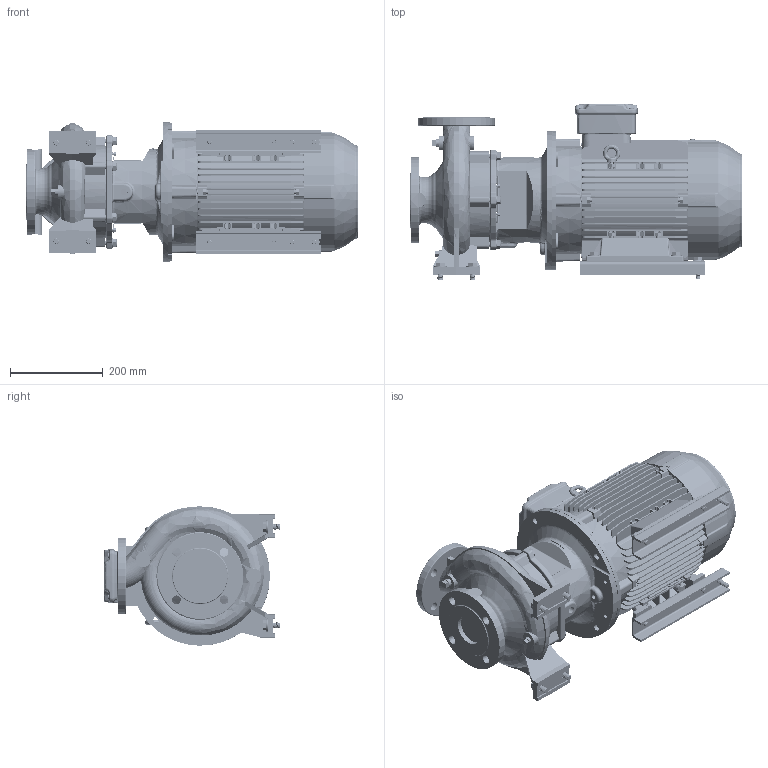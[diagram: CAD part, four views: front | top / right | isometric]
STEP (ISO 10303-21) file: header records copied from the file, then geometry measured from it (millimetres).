
FILE_DESCRIPTION (( 'STEP AP214' ), '1' );
FILE_NAME ('GSD2 50-160_9.2_(132M)_W21.STEP', '2026-07-07T04:07:20', ( '' ), ( '' ), 'SwSTEP 2.0', 'SolidWorks 2024', '' );
FILE_SCHEMA (( 'AUTOMOTIVE_DESIGN' ));
Length unit declared in the file: millimetre
Products named in the file (12): Parametric bolt_SFT-A299B; Parametric Flat Washer_M12; Parametric Flat Washer_M10; GSD2  50-160_9.2_(132M)_W21; 132M ALIE3_W21T_B35; 140_178 x 28 - 271472025; 50-160-132M; Parametric bolt_SFT-A253B; Parametric bolt and washer_SFT-A275B; Parametric bolt_SFT-A257B; Parametric bolt and washer_SFT-A299B; Parametric bolt and washer_SFT-A253B
Assembly tree (20 placements, depth 3):
  GSD2  50-160_9.2_(132M)_W21
    50-160-132M
    140_178 x 28 - 271472025  x2
    Parametric bolt and washer_SFT-A253B  x4
      Parametric bolt_SFT-A253B
      Parametric Flat Washer_M10
    Parametric bolt and washer_SFT-A275B  x2
      Parametric bolt_SFT-A257B
      Parametric Flat Washer_M10
    Parametric bolt and washer_SFT-A299B  x4
      Parametric bolt_SFT-A299B
      Parametric Flat Washer_M12
    132M ALIE3_W21T_B35
Bounding box: 714.8 x 380.5 x 300 mm (x, y, z)
Volume: 27713459.3 mm3; surface area: 1907730.6 mm2
Topology: 35 solids, 35 shells, 5057 faces, 13290 edges, 8640 vertices
Faces by surface type: plane 2909, cylinder 1294, torus 341, bspline 267, cone 214, sphere 32
Entity records: 177886 total; most frequent: CARTESIAN_POINT 66112, ORIENTED_EDGE 24232, DIRECTION 21609, EDGE_CURVE 12116, VECTOR 7907, LINE 7907, VERTEX_POINT 7892, AXIS2_PLACEMENT_3D 6851
